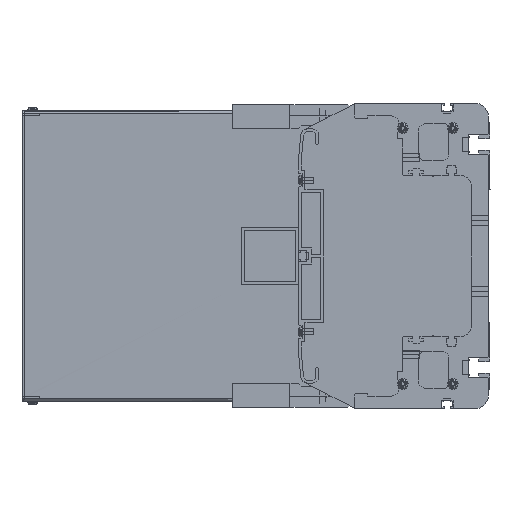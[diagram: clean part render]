
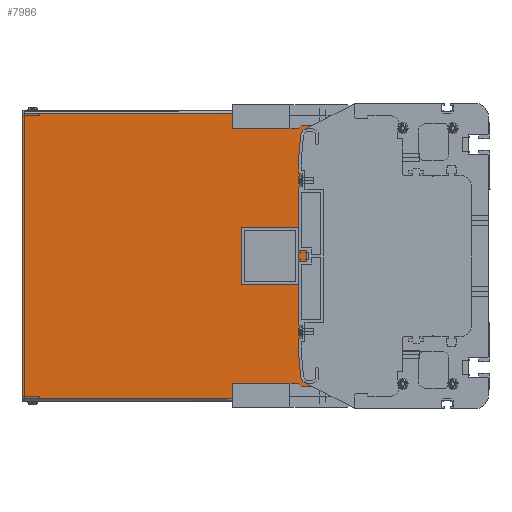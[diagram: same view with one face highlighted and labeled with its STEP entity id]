
A CAD part, left-side view. The second image highlights one B-rep face of the part: STEP entity #7986.
In plain terms, the highlighted planar face has unit normal (-1, 0, 0).
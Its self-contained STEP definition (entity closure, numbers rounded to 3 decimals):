
#125=CARTESIAN_POINT('',(-134.5,326.,100.));
#144=CARTESIAN_POINT('',(-134.442,326.,-99.882));
#210=DIRECTION('',(0.,1.,0.));
#211=VECTOR('',#210,1.5);
#212=CARTESIAN_POINT('',(-134.5,326.,98.5));
#213=LINE('',#212,#211);
#293=DIRECTION('',(0.,0.,1.));
#294=VECTOR('',#293,197.);
#295=CARTESIAN_POINT('',(-134.5,327.5,-98.5));
#296=LINE('',#295,#294);
#340=CARTESIAN_POINT('',(-134.5,326.,-98.5));
#341=CARTESIAN_POINT('',(-134.5,326.,-98.724));
#342=CARTESIAN_POINT('',(-134.529,326.,-99.258));
#343=CARTESIAN_POINT('',(-134.442,326.,-99.606));
#344=CARTESIAN_POINT('',(-134.442,326.,-99.882));
#346=DIRECTION('',(0.,0.,-1.));
#347=VECTOR('',#346,1.5);
#348=CARTESIAN_POINT('',(-134.5,326.,100.));
#349=LINE('',#348,#347);
#350=DIRECTION('',(0.,0.,1.));
#351=VECTOR('',#350,200.);
#352=CARTESIAN_POINT('',(-134.5,95.,-100.));
#353=LINE('',#352,#351);
#354=DIRECTION('',(0.,-1.,0.));
#355=VECTOR('',#354,40.);
#356=CARTESIAN_POINT('',(-134.5,174.,20.));
#357=LINE('',#356,#355);
#358=DIRECTION('',(0.,0.,1.));
#359=VECTOR('',#358,40.);
#360=CARTESIAN_POINT('',(-134.5,174.,-20.));
#361=LINE('',#360,#359);
#362=DIRECTION('',(0.,1.,0.));
#363=VECTOR('',#362,40.);
#364=CARTESIAN_POINT('',(-134.5,134.,-20.));
#365=LINE('',#364,#363);
#366=DIRECTION('',(0.,0.,-1.));
#367=VECTOR('',#366,40.);
#368=CARTESIAN_POINT('',(-134.5,134.,20.));
#369=LINE('',#368,#367);
#390=DIRECTION('',(0.,-1.,0.));
#391=VECTOR('',#390,1.5);
#392=CARTESIAN_POINT('',(-134.5,327.5,-98.5));
#393=LINE('',#392,#391);
#394=DIRECTION('',(0.,1.,0.));
#395=VECTOR('',#394,231.);
#396=CARTESIAN_POINT('',(-134.5,95.,100.));
#397=LINE('',#396,#395);
#3507=DIRECTION('',(0.,-1.,-0.001));
#3508=VECTOR('',#3507,231.);
#3509=CARTESIAN_POINT('',(-134.442,326.,-99.882));
#3510=LINE('',#3509,#3508);
#5846=CARTESIAN_POINT('',(-134.5,95.,100.));
#5847=VERTEX_POINT('',#5846);
#5848=CARTESIAN_POINT('',(-134.5,95.,-100.));
#5849=VERTEX_POINT('',#5848);
#5878=VERTEX_POINT('',#125);
#5881=VERTEX_POINT('',#144);
#7158=CARTESIAN_POINT('',(-134.5,327.5,98.5));
#7160=VERTEX_POINT('',#7158);
#7162=CARTESIAN_POINT('',(-134.5,327.5,-98.5));
#7163=VERTEX_POINT('',#7162);
#7383=CARTESIAN_POINT('',(-134.5,326.,98.5));
#7384=VERTEX_POINT('',#7383);
#7389=CARTESIAN_POINT('',(-134.5,326.,-98.5));
#7390=VERTEX_POINT('',#7389);
#7519=CARTESIAN_POINT('',(-134.5,174.,20.));
#7520=CARTESIAN_POINT('',(-134.5,134.,20.));
#7521=VERTEX_POINT('',#7519);
#7522=VERTEX_POINT('',#7520);
#7523=CARTESIAN_POINT('',(-134.5,174.,-20.));
#7524=VERTEX_POINT('',#7523);
#7525=CARTESIAN_POINT('',(-134.5,134.,-20.));
#7526=VERTEX_POINT('',#7525);
#7956=CARTESIAN_POINT('',(-134.5,210.5,0.));
#7957=DIRECTION('',(1.,0.,0.));
#7958=DIRECTION('',(0.,0.,1.));
#7959=AXIS2_PLACEMENT_3D('',#7956,#7957,#7958);
#7960=PLANE('',#7959);
#7962=ORIENTED_EDGE('',*,*,#7961,.F.);
#7964=ORIENTED_EDGE('',*,*,#7963,.F.);
#7965=ORIENTED_EDGE('',*,*,#7879,.T.);
#7966=ORIENTED_EDGE('',*,*,#7812,.F.);
#7967=ORIENTED_EDGE('',*,*,#7698,.F.);
#7969=ORIENTED_EDGE('',*,*,#7968,.F.);
#7971=ORIENTED_EDGE('',*,*,#7970,.F.);
#7973=ORIENTED_EDGE('',*,*,#7972,.F.);
#7974=EDGE_LOOP('',(#7962,#7964,#7965,#7966,#7967,#7969,#7971,#7973));
#7975=FACE_OUTER_BOUND('',#7974,.F.);
#7977=ORIENTED_EDGE('',*,*,#7976,.F.);
#7979=ORIENTED_EDGE('',*,*,#7978,.F.);
#7981=ORIENTED_EDGE('',*,*,#7980,.F.);
#7983=ORIENTED_EDGE('',*,*,#7982,.F.);
#7984=EDGE_LOOP('',(#7977,#7979,#7981,#7983));
#7985=FACE_BOUND('',#7984,.F.);
#7986=ADVANCED_FACE('',(#7975,#7985),#7960,.F.);
#345=B_SPLINE_CURVE_WITH_KNOTS('',3,(#340,#341,#342,#343,#344),.UNSPECIFIED.,
.F.,.F.,(4,1,4),(0.,0.5,1.),.UNSPECIFIED.);
#7698=EDGE_CURVE('',#5878,#7384,#349,.T.);
#7812=EDGE_CURVE('',#7384,#7160,#213,.T.);
#7879=EDGE_CURVE('',#7163,#7160,#296,.T.);
#7961=EDGE_CURVE('',#7390,#5881,#345,.T.);
#7963=EDGE_CURVE('',#7163,#7390,#393,.T.);
#7968=EDGE_CURVE('',#5847,#5878,#397,.T.);
#7970=EDGE_CURVE('',#5849,#5847,#353,.T.);
#7972=EDGE_CURVE('',#5881,#5849,#3510,.T.);
#7976=EDGE_CURVE('',#7521,#7522,#357,.T.);
#7978=EDGE_CURVE('',#7524,#7521,#361,.T.);
#7980=EDGE_CURVE('',#7526,#7524,#365,.T.);
#7982=EDGE_CURVE('',#7522,#7526,#369,.T.);
